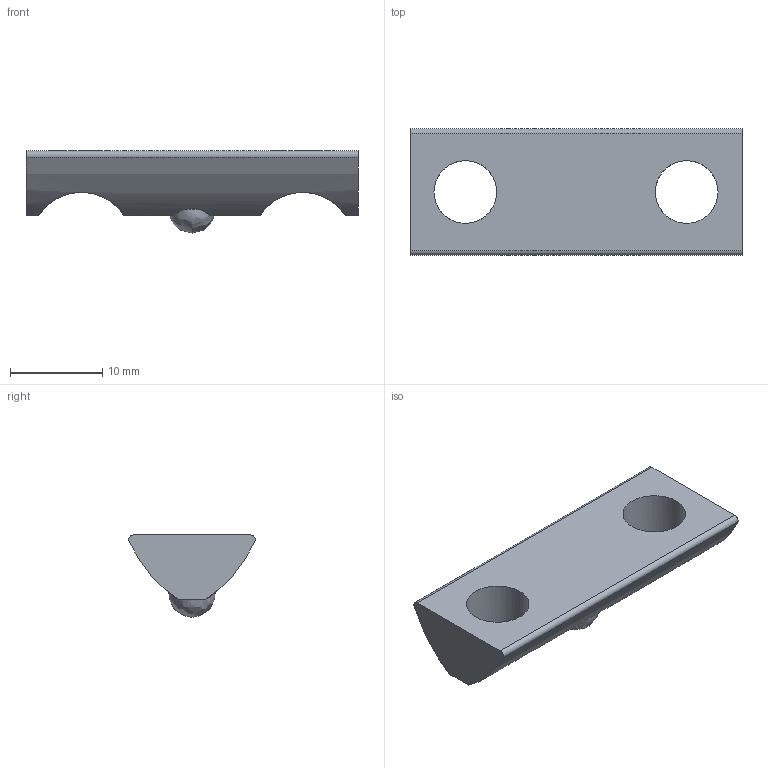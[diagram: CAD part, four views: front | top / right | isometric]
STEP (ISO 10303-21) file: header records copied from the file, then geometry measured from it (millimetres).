
FILE_DESCRIPTION (( 'STEP AP203' ), '1' );
FILE_NAME ('0108NSM8-36ST.STEP', '2024-09-04T12:54:17', ( 'Windows-Benutzer' ), ( '' ), 'SwSTEP 2.0', 'SolidWorks 2024', '' );
FILE_SCHEMA (( 'CONFIG_CONTROL_DESIGN' ));
Length unit declared in the file: millimetre
Products named in the file (1): 0108NSM8-36ST
Bounding box: 36 x 13.7 x 8.9 mm (x, y, z)
Volume: 1948.5 mm3; surface area: 1449.9 mm2
Topology: 1 solids, 1 shells, 20 faces, 60 edges, 38 vertices
Faces by surface type: cylinder 10, plane 7, bspline 3
Entity records: 1070 total; most frequent: CARTESIAN_POINT 492, ORIENTED_EDGE 112, DIRECTION 92, EDGE_CURVE 56, VERTEX_POINT 38, AXIS2_PLACEMENT_3D 34, LINE 24, VECTOR 24
